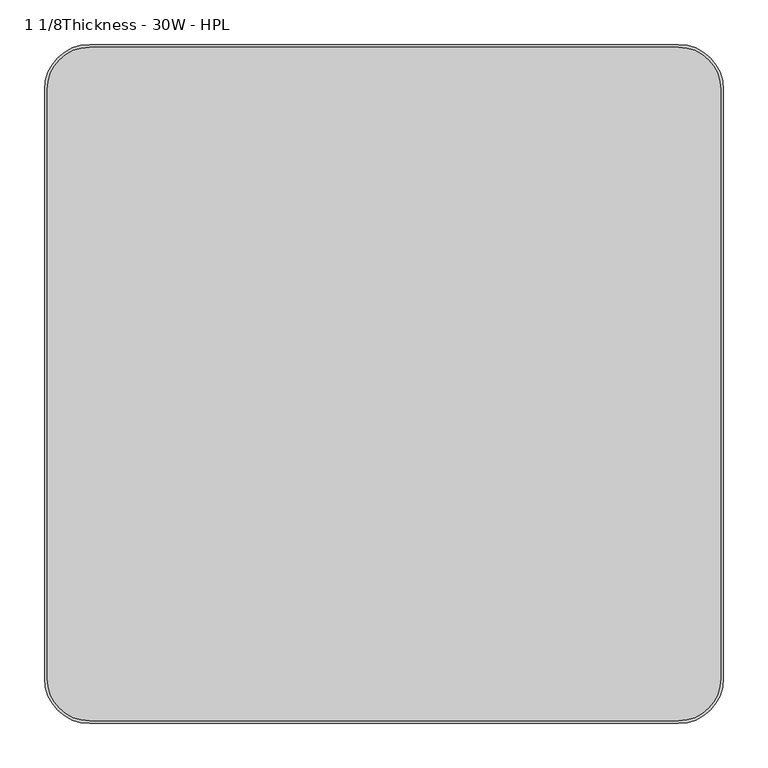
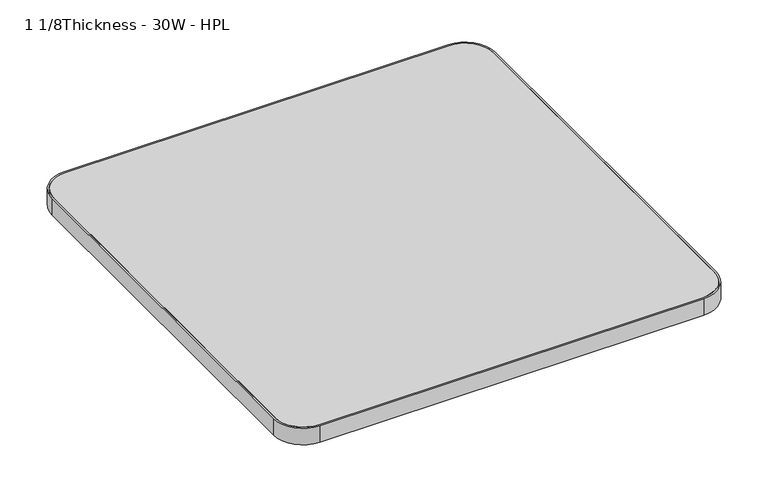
"""IFC4 building model written with IfcOpenShell, lengths in millimetres: furniture geometry, Steelcase - Groupwork - Table - Top - Square : 1 1/8Thickness - 30W - HPL."""

from ifc_helpers import new_model, si_unit, point, frame, frame_2d, origin, place, context, project, spatial, polyline, circle_curve, trimmed, segment, composite_curve, outline, extrude, source, transform, mapped, element, save


def furniture_1_1_8thickness_30w_hpl_c077e206(model_context):
    return source(origin(), model_context, "Body", "SweptSolid", [
        extrude(outline(composite_curve([segment(polyline([(-358.648, 378.0), (301.848, 378.0)]), True, "CONTINUOUS"), segment(trimmed(circle_curve(frame_2d((301.848, 330.248)), 47.752), [point((301.848, 378.0))], [point((349.6, 330.248))], False, "CARTESIAN"), True, "CONTINUOUS"), segment(polyline([(349.6, 330.248), (349.6, -330.248)]), True, "CONTINUOUS"), segment(trimmed(circle_curve(frame_2d((301.848, -330.248)), 47.752), [point((349.6, -330.248))], [point((301.848, -378.0))], False, "CARTESIAN"), True, "CONTINUOUS"), segment(polyline([(301.848, -378.0), (-358.648, -378.0)]), True, "CONTINUOUS"), segment(trimmed(circle_curve(frame_2d((-358.648, -330.248)), 47.752), [point((-358.648, -378.0))], [point((-406.4, -330.248))], False, "CARTESIAN"), True, "CONTINUOUS"), segment(polyline([(-406.4, -330.248), (-406.4, 330.248)]), True, "CONTINUOUS"), segment(trimmed(circle_curve(frame_2d((-358.648, 330.248)), 47.752), [point((-406.4, 330.248))], [point((-358.648, 378.0))], False, "CARTESIAN"), True, "CONTINUOUS")], self_intersect=False)), frame((0.0, 0.0, 695.579), z_axis=(0.0, 0.0, 1.0), x_axis=(1.0, 0.0, 0.0)), (0.0, 0.0, 1.0), 29.972),
        extrude(outline(composite_curve([segment(trimmed(circle_curve(frame_2d((301.8, 330.2)), 50.8), [point((301.8, 381.0))], [point((352.6, 330.2))], False, "CARTESIAN"), True, "CONTINUOUS"), segment(polyline([(352.6, 330.2), (352.6, -330.2)]), True, "CONTINUOUS"), segment(trimmed(circle_curve(frame_2d((301.8, -330.2)), 50.8), [point((352.6, -330.2))], [point((301.8, -381.0))], False, "CARTESIAN"), True, "CONTINUOUS"), segment(polyline([(301.8, -381.0), (-358.6, -381.0)]), True, "CONTINUOUS"), segment(trimmed(circle_curve(frame_2d((-358.6, -330.2)), 50.8), [point((-358.6, -381.0))], [point((-409.4, -330.2))], False, "CARTESIAN"), True, "CONTINUOUS"), segment(polyline([(-409.4, -330.2), (-409.4, 330.2)]), True, "CONTINUOUS"), segment(trimmed(circle_curve(frame_2d((-358.6, 330.2)), 50.8), [point((-409.4, 330.2))], [point((-358.6, 381.0))], False, "CARTESIAN"), True, "CONTINUOUS"), segment(polyline([(-358.6, 381.0), (301.8, 381.0)]), True, "CONTINUOUS")], self_intersect=False), holes=[composite_curve([segment(polyline([(301.848, 378.0), (-358.648, 378.0)]), True, "CONTINUOUS"), segment(trimmed(circle_curve(frame_2d((-358.648, 330.248)), 47.752), [point((-358.648, 378.0))], [point((-406.4, 330.248))], True, "CARTESIAN"), True, "CONTINUOUS"), segment(polyline([(-406.4, 330.248), (-406.4, -330.248)]), True, "CONTINUOUS"), segment(trimmed(circle_curve(frame_2d((-358.648, -330.248)), 47.752), [point((-406.4, -330.248))], [point((-358.648, -378.0))], True, "CARTESIAN"), True, "CONTINUOUS"), segment(polyline([(-358.648, -378.0), (301.848, -378.0)]), True, "CONTINUOUS"), segment(trimmed(circle_curve(frame_2d((301.848, -330.248)), 47.752), [point((301.848, -378.0))], [point((349.6, -330.248))], True, "CARTESIAN"), True, "CONTINUOUS"), segment(polyline([(349.6, -330.248), (349.6, 330.248)]), True, "CONTINUOUS"), segment(trimmed(circle_curve(frame_2d((301.848, 330.248)), 47.752), [point((349.6, 330.248))], [point((301.848, 378.0))], True, "CARTESIAN"), True, "CONTINUOUS")], self_intersect=False)]), frame((0.0, 0.0, 695.579), z_axis=(0.0, 0.0, 1.0), x_axis=(1.0, 0.0, 0.0)), (0.0, 0.0, 1.0), 29.972),
    ])


if __name__ == "__main__":
    model = new_model("IFC4")
    model_context = context("Model", 3, world=origin())
    ifc_project = project(units=[si_unit("LENGTHUNIT", "METRE", prefix="MILLI")], contexts=[model_context])
    site = spatial("IfcSite", under=ifc_project)
    building = spatial("IfcBuilding", under=site)
    placement = place(None, origin())
    furniture_1_1_8thickness_30w_hpl_shape = furniture_1_1_8thickness_30w_hpl_c077e206(model_context)
    element("IfcFurniture", 1, ObjectType="Steelcase - Groupwork - Table - Top - Square : 1 1/8Thickness - 30W - HPL", at=placement, inside=building, context=model_context, shape_type="MappedRepresentation", body=[
        mapped(furniture_1_1_8thickness_30w_hpl_shape, transform((0.0, 0.0, 0.0), x_axis=(1.0, 0.0, 0.0), y_axis=(0.0, 1.0, 0.0), z_axis=(0.0, 0.0, 1.0))),
    ])
    save(model, "model.ifc")
